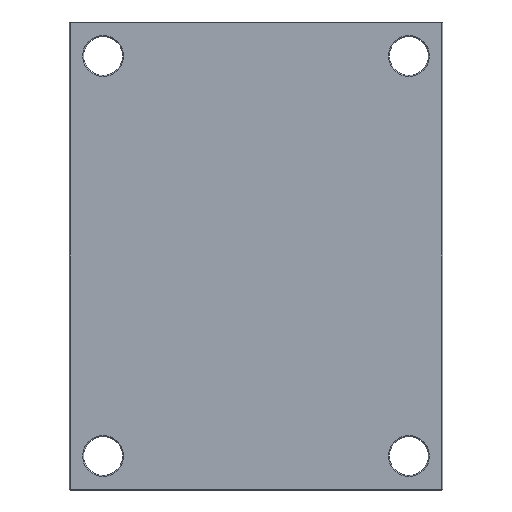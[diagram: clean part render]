
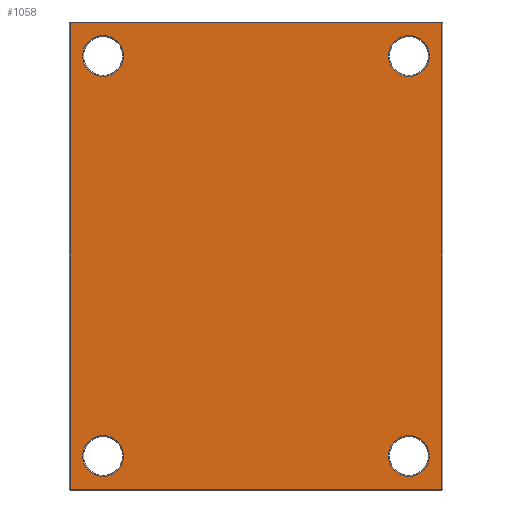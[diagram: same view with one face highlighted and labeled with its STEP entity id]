
A CAD part, front view. The second image highlights one B-rep face of the part: STEP entity #1058.
In plain terms, the highlighted planar face has unit normal (0, -1, 0).
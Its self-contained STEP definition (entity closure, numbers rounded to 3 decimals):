
#44 = ORIENTED_EDGE ( 'NONE', *, *, #669, .T. ) ;
#57 = CARTESIAN_POINT ( 'NONE',  ( 162., 0., -212. ) ) ;
#72 = AXIS2_PLACEMENT_3D ( 'NONE', #804, #795, #785 ) ;
#79 = AXIS2_PLACEMENT_3D ( 'NONE', #2144, #1973, #2160 ) ;
#80 = ORIENTED_EDGE ( 'NONE', *, *, #643, .T. ) ;
#82 = CARTESIAN_POINT ( 'NONE',  ( 197., 0., 247. ) ) ;
#88 = AXIS2_PLACEMENT_3D ( 'NONE', #1875, #1901, #1931 ) ;
#97 = AXIS2_PLACEMENT_3D ( 'NONE', #1439, #1517, #1572 ) ;
#104 = ORIENTED_EDGE ( 'NONE', *, *, #686, .T. ) ;
#108 = ORIENTED_EDGE ( 'NONE', *, *, #689, .T. ) ;
#181 = VECTOR ( 'NONE', #1067, 1000. ) ;
#194 = ORIENTED_EDGE ( 'NONE', *, *, #633, .T. ) ;
#219 = ORIENTED_EDGE ( 'NONE', *, *, #1299, .T. ) ;
#248 = DIRECTION ( 'NONE',  ( 0., 1., 0. ) ) ;
#284 = CIRCLE ( 'NONE', #79, 21.65 ) ;
#302 = ORIENTED_EDGE ( 'NONE', *, *, #1027, .T. ) ;
#311 = CARTESIAN_POINT ( 'NONE',  ( -162., 0., -233.65 ) ) ;
#314 = AXIS2_PLACEMENT_3D ( 'NONE', #57, #248, #1116 ) ;
#337 = CIRCLE ( 'NONE', #97, 21.65 ) ;
#475 = CARTESIAN_POINT ( 'NONE',  ( -162., 0., 190.35 ) ) ;
#517 = ORIENTED_EDGE ( 'NONE', *, *, #658, .T. ) ;
#521 = ORIENTED_EDGE ( 'NONE', *, *, #1290, .T. ) ;
#540 = DIRECTION ( 'NONE',  ( 1., 0., 0. ) ) ;
#541 = VERTEX_POINT ( 'NONE', #1745 ) ;
#569 = CARTESIAN_POINT ( 'NONE',  ( 0., 0., -247. ) ) ;
#581 = DIRECTION ( 'NONE',  ( 0., 1., 0. ) ) ;
#590 = DIRECTION ( 'NONE',  ( 0., 0., 1. ) ) ;
#595 = DIRECTION ( 'NONE',  ( 0., 0., -1. ) ) ;
#601 = CARTESIAN_POINT ( 'NONE',  ( -197., 0., 0. ) ) ;
#604 = CARTESIAN_POINT ( 'NONE',  ( 162., 0., 212. ) ) ;
#610 = ORIENTED_EDGE ( 'NONE', *, *, #1313, .T. ) ;
#633 = EDGE_CURVE ( 'NONE', #541, #1580, #337, .T. ) ;
#635 = DIRECTION ( 'NONE',  ( 0., 0., 1. ) ) ;
#643 = EDGE_CURVE ( 'NONE', #2015, #2002, #708, .T. ) ;
#657 = EDGE_CURVE ( 'NONE', #2040, #886, #284, .T. ) ;
#658 = EDGE_CURVE ( 'NONE', #2020, #1552, #760, .T. ) ;
#659 = LINE ( 'NONE', #601, #1123 ) ;
#660 = CARTESIAN_POINT ( 'NONE',  ( 197., 0., 0. ) ) ;
#664 = CIRCLE ( 'NONE', #1586, 21.65 ) ;
#666 = CARTESIAN_POINT ( 'NONE',  ( 0., 0., 247. ) ) ;
#669 = EDGE_CURVE ( 'NONE', #1959, #936, #1591, .T. ) ;
#684 = EDGE_CURVE ( 'NONE', #936, #1142, #1982, .T. ) ;
#686 = EDGE_CURVE ( 'NONE', #1142, #1118, #659, .T. ) ;
#689 = EDGE_CURVE ( 'NONE', #1118, #1959, #1941, .T. ) ;
#708 = CIRCLE ( 'NONE', #88, 21.65 ) ;
#760 = CIRCLE ( 'NONE', #72, 21.65 ) ;
#765 = CARTESIAN_POINT ( 'NONE',  ( -197., 0., 247. ) ) ;
#785 = DIRECTION ( 'NONE',  ( 0., 0., 1. ) ) ;
#795 = DIRECTION ( 'NONE',  ( 0., 1., 0. ) ) ;
#804 = CARTESIAN_POINT ( 'NONE',  ( -162., 0., 212. ) ) ;
#824 = ORIENTED_EDGE ( 'NONE', *, *, #684, .T. ) ;
#847 = FACE_OUTER_BOUND ( 'NONE', #1362, .T. ) ;
#876 = CARTESIAN_POINT ( 'NONE',  ( 162., 0., -233.65 ) ) ;
#886 = VERTEX_POINT ( 'NONE', #2123 ) ;
#893 = EDGE_LOOP ( 'NONE', ( #219, #80 ) ) ;
#936 = VERTEX_POINT ( 'NONE', #82 ) ;
#1027 = EDGE_CURVE ( 'NONE', #1580, #541, #664, .T. ) ;
#1058 = ADVANCED_FACE ( 'NONE', ( #1821, #1371, #1776, #1321, #847 ), #1741, .F. ) ;
#1067 = DIRECTION ( 'NONE',  ( -1., 0., 0. ) ) ;
#1075 = CARTESIAN_POINT ( 'NONE',  ( -197., 0., -247. ) ) ;
#1077 = VECTOR ( 'NONE', #540, 1000. ) ;
#1116 = DIRECTION ( 'NONE',  ( 0., 0., 1. ) ) ;
#1118 = VERTEX_POINT ( 'NONE', #1075 ) ;
#1123 = VECTOR ( 'NONE', #595, 1000. ) ;
#1142 = VERTEX_POINT ( 'NONE', #765 ) ;
#1150 = CARTESIAN_POINT ( 'NONE',  ( 162., 0., 233.65 ) ) ;
#1191 = EDGE_LOOP ( 'NONE', ( #302, #194 ) ) ;
#1277 = DIRECTION ( 'NONE',  ( 0., 0., 1. ) ) ;
#1290 = EDGE_CURVE ( 'NONE', #886, #2040, #1472, .T. ) ;
#1299 = EDGE_CURVE ( 'NONE', #2002, #2015, #1414, .T. ) ;
#1313 = EDGE_CURVE ( 'NONE', #1552, #2020, #2132, .T. ) ;
#1321 = FACE_BOUND ( 'NONE', #1768, .T. ) ;
#1348 = DIRECTION ( 'NONE',  ( 0., 1., 0. ) ) ;
#1362 = EDGE_LOOP ( 'NONE', ( #44, #824, #104, #108 ) ) ;
#1371 = FACE_BOUND ( 'NONE', #893, .T. ) ;
#1414 = CIRCLE ( 'NONE', #314, 21.65 ) ;
#1418 = ORIENTED_EDGE ( 'NONE', *, *, #657, .T. ) ;
#1439 = CARTESIAN_POINT ( 'NONE',  ( -162., 0., -212. ) ) ;
#1472 = CIRCLE ( 'NONE', #1643, 21.65 ) ;
#1511 = CARTESIAN_POINT ( 'NONE',  ( 162., 0., -190.35 ) ) ;
#1517 = DIRECTION ( 'NONE',  ( 0., 1., 0. ) ) ;
#1552 = VERTEX_POINT ( 'NONE', #475 ) ;
#1572 = DIRECTION ( 'NONE',  ( 0., 0., 1. ) ) ;
#1580 = VERTEX_POINT ( 'NONE', #311 ) ;
#1586 = AXIS2_PLACEMENT_3D ( 'NONE', #2022, #2014, #2008 ) ;
#1591 = LINE ( 'NONE', #660, #2030 ) ;
#1614 = AXIS2_PLACEMENT_3D ( 'NONE', #1803, #1677, #1672 ) ;
#1643 = AXIS2_PLACEMENT_3D ( 'NONE', #604, #581, #590 ) ;
#1672 = DIRECTION ( 'NONE',  ( 0., 0., 1. ) ) ;
#1677 = DIRECTION ( 'NONE',  ( 0., 1., 0. ) ) ;
#1686 = CARTESIAN_POINT ( 'NONE',  ( -162., 0., 233.65 ) ) ;
#1697 = CARTESIAN_POINT ( 'NONE',  ( -162., 0., 212. ) ) ;
#1731 = AXIS2_PLACEMENT_3D ( 'NONE', #1697, #1348, #1277 ) ;
#1741 = PLANE ( 'NONE',  #1614 ) ;
#1745 = CARTESIAN_POINT ( 'NONE',  ( -162., 0., -190.35 ) ) ;
#1746 = EDGE_LOOP ( 'NONE', ( #521, #1418 ) ) ;
#1750 = CARTESIAN_POINT ( 'NONE',  ( 197., 0., -247. ) ) ;
#1768 = EDGE_LOOP ( 'NONE', ( #610, #517 ) ) ;
#1776 = FACE_BOUND ( 'NONE', #1746, .T. ) ;
#1803 = CARTESIAN_POINT ( 'NONE',  ( 0., 0., 0. ) ) ;
#1821 = FACE_BOUND ( 'NONE', #1191, .T. ) ;
#1875 = CARTESIAN_POINT ( 'NONE',  ( 162., 0., -212. ) ) ;
#1901 = DIRECTION ( 'NONE',  ( 0., 1., 0. ) ) ;
#1931 = DIRECTION ( 'NONE',  ( 0., 0., 1. ) ) ;
#1941 = LINE ( 'NONE', #569, #1077 ) ;
#1959 = VERTEX_POINT ( 'NONE', #1750 ) ;
#1973 = DIRECTION ( 'NONE',  ( 0., 1., 0. ) ) ;
#1982 = LINE ( 'NONE', #666, #181 ) ;
#2002 = VERTEX_POINT ( 'NONE', #876 ) ;
#2008 = DIRECTION ( 'NONE',  ( 0., 0., 1. ) ) ;
#2014 = DIRECTION ( 'NONE',  ( 0., 1., 0. ) ) ;
#2015 = VERTEX_POINT ( 'NONE', #1511 ) ;
#2020 = VERTEX_POINT ( 'NONE', #1686 ) ;
#2022 = CARTESIAN_POINT ( 'NONE',  ( -162., 0., -212. ) ) ;
#2030 = VECTOR ( 'NONE', #635, 1000. ) ;
#2040 = VERTEX_POINT ( 'NONE', #1150 ) ;
#2123 = CARTESIAN_POINT ( 'NONE',  ( 162., 0., 190.35 ) ) ;
#2132 = CIRCLE ( 'NONE', #1731, 21.65 ) ;
#2144 = CARTESIAN_POINT ( 'NONE',  ( 162., 0., 212. ) ) ;
#2160 = DIRECTION ( 'NONE',  ( 0., 0., 1. ) ) ;
